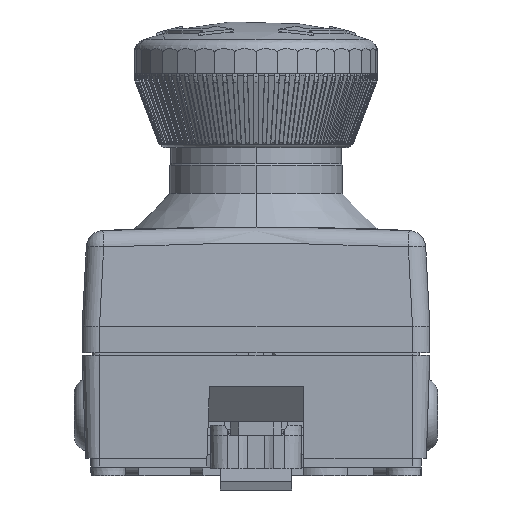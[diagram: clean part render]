
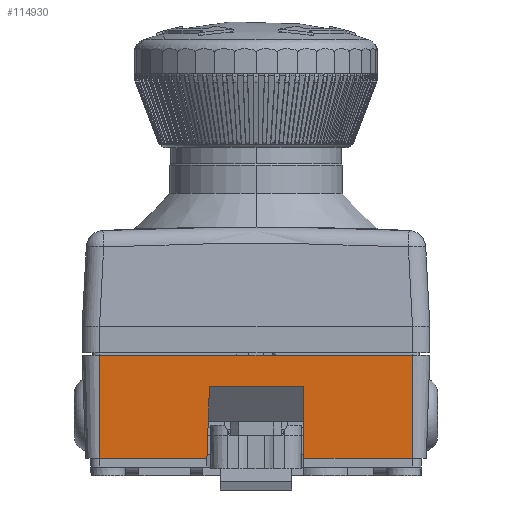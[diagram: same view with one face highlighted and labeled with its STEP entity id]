
A CAD part, left-side view. The second image highlights one B-rep face of the part: STEP entity #114930.
In plain terms, the highlighted planar face has unit normal (-0.999, 0, -0.035).
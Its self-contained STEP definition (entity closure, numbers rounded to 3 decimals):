
#57628=DIRECTION('',(0.035,0.035,-0.999));
#57629=VECTOR('',#57628,8.23);
#57630=CARTESIAN_POINT('',(-3.382,24.331,
10.22));
#57631=LINE('',#57630,#57629);
#57649=DIRECTION('',(0.,1.,0.));
#57650=VECTOR('',#57649,12.353);
#57651=CARTESIAN_POINT('',(-3.095,24.618,2.));
#57652=LINE('',#57651,#57650);
#57702=DIRECTION('',(0.,1.,0.));
#57703=VECTOR('',#57702,12.5);
#57704=CARTESIAN_POINT('',(-3.095,0.972,2.));
#57705=LINE('',#57704,#57703);
#57762=DIRECTION('',(0.,1.,0.));
#57763=VECTOR('',#57762,36.);
#57764=CARTESIAN_POINT('',(-3.509,0.972,13.85));
#57765=LINE('',#57764,#57763);
#57797=DIRECTION('',(-0.035,0.,0.999));
#57798=VECTOR('',#57797,8.225);
#57799=CARTESIAN_POINT('',(-3.095,13.472,2.));
#57800=LINE('',#57799,#57798);
#57887=DIRECTION('',(0.,1.,0.));
#57888=VECTOR('',#57887,10.86);
#57889=CARTESIAN_POINT('',(-3.382,13.472,
10.22));
#57890=LINE('',#57889,#57888);
#57985=DIRECTION('',(-0.035,0.,0.999));
#57986=VECTOR('',#57985,11.857);
#57987=CARTESIAN_POINT('',(-3.095,36.972,2.));
#57988=LINE('',#57987,#57986);
#67268=DIRECTION('',(0.035,0.,-0.999));
#67269=VECTOR('',#67268,11.857);
#67270=CARTESIAN_POINT('',(-3.509,0.972,13.85));
#67271=LINE('',#67270,#67269);
#98850=CARTESIAN_POINT('',(-3.509,36.972,13.85));
#98851=VERTEX_POINT('',#98850);
#98852=CARTESIAN_POINT('',(-3.509,0.972,13.85));
#98853=VERTEX_POINT('',#98852);
#101178=CARTESIAN_POINT('',(-3.095,24.618,2.));
#101179=CARTESIAN_POINT('',(-3.095,36.972,2.));
#101180=VERTEX_POINT('',#101178);
#101181=VERTEX_POINT('',#101179);
#101182=CARTESIAN_POINT('',(-3.095,0.972,2.));
#101183=VERTEX_POINT('',#101182);
#101184=CARTESIAN_POINT('',(-3.095,13.472,2.));
#101185=VERTEX_POINT('',#101184);
#101210=CARTESIAN_POINT('',(-3.382,24.331,
10.22));
#101211=VERTEX_POINT('',#101210);
#101293=CARTESIAN_POINT('',(-3.382,13.472,
10.22));
#101294=VERTEX_POINT('',#101293);
#114911=CARTESIAN_POINT('',(-3.074,38.772,1.408));
#114912=DIRECTION('',(-0.999,0.,-0.035));
#114913=DIRECTION('',(0.,-1.,0.));
#114914=AXIS2_PLACEMENT_3D('',#114911,#114912,#114913);
#114915=PLANE('',#114914);
#114916=ORIENTED_EDGE('',*,*,#114892,.T.);
#114918=ORIENTED_EDGE('',*,*,#114917,.T.);
#114920=ORIENTED_EDGE('',*,*,#114919,.T.);
#114921=ORIENTED_EDGE('',*,*,#114844,.T.);
#114922=ORIENTED_EDGE('',*,*,#114870,.T.);
#114924=ORIENTED_EDGE('',*,*,#114923,.T.);
#114925=ORIENTED_EDGE('',*,*,#111712,.F.);
#114927=ORIENTED_EDGE('',*,*,#114926,.T.);
#114928=EDGE_LOOP('',(#114916,#114918,#114920,#114921,#114922,#114924,#114925,
#114927));
#114929=FACE_OUTER_BOUND('',#114928,.F.);
#114930=ADVANCED_FACE('',(#114929),#114915,.T.);
#111712=EDGE_CURVE('',#98853,#98851,#57765,.T.);
#114844=EDGE_CURVE('',#101211,#101180,#57631,.T.);
#114870=EDGE_CURVE('',#101180,#101181,#57652,.T.);
#114892=EDGE_CURVE('',#101183,#101185,#57705,.T.);
#114917=EDGE_CURVE('',#101185,#101294,#57800,.T.);
#114919=EDGE_CURVE('',#101294,#101211,#57890,.T.);
#114923=EDGE_CURVE('',#101181,#98851,#57988,.T.);
#114926=EDGE_CURVE('',#98853,#101183,#67271,.T.);
